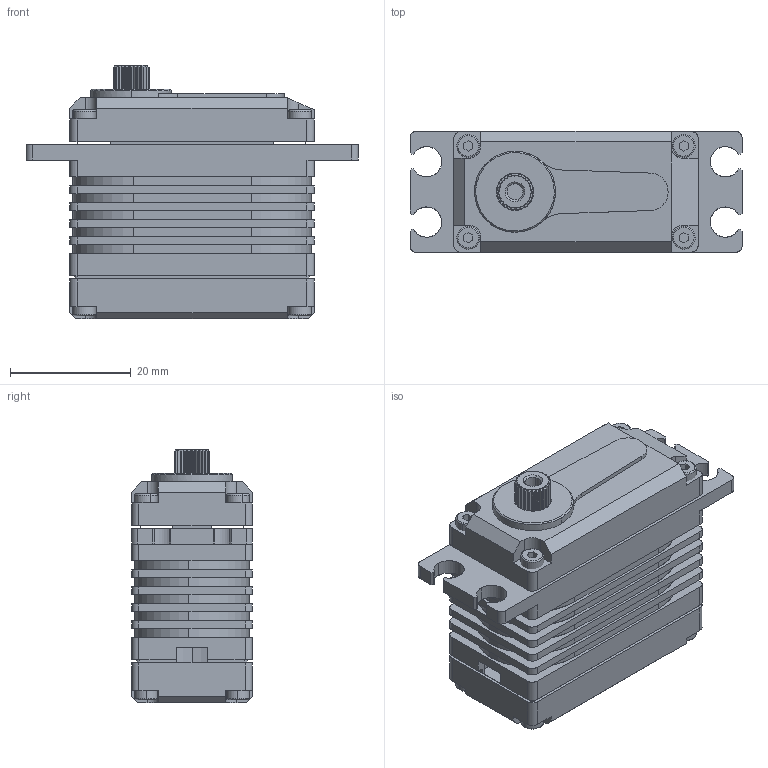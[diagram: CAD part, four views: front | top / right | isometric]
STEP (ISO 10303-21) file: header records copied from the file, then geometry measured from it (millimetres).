
FILE_DESCRIPTION (( 'STEP AP214' ), '1' );
FILE_NAME ('X20-1035_DM.STEP', '2021-03-03T08:16:16', ( '微软用户' ), ( '微软中国' ), 'SwSTEP 2.0', 'SolidWorks 2016', '' );
FILE_SCHEMA (( 'AUTOMOTIVE_DESIGN' ));
Length unit declared in the file: millimetre
Products named in the file (2): X20-1035_DM
Bounding box: 55 x 20 x 42 mm (x, y, z)
Surface area: 12100.8 mm2 (no closed solid volume)
Topology: 0 solids, 165 shells, 472 faces, 1851 edges, 1546 vertices
Faces by surface type: plane 250, cylinder 176, cone 30, torus 16
Entity records: 26004 total; most frequent: CARTESIAN_POINT 5714, DIRECTION 2962, ORIENTED_EDGE 2648, EDGE_CURVE 1851, VERTEX_POINT 1546, LINE 1166, VECTOR 1166, AXIS2_PLACEMENT_3D 898
